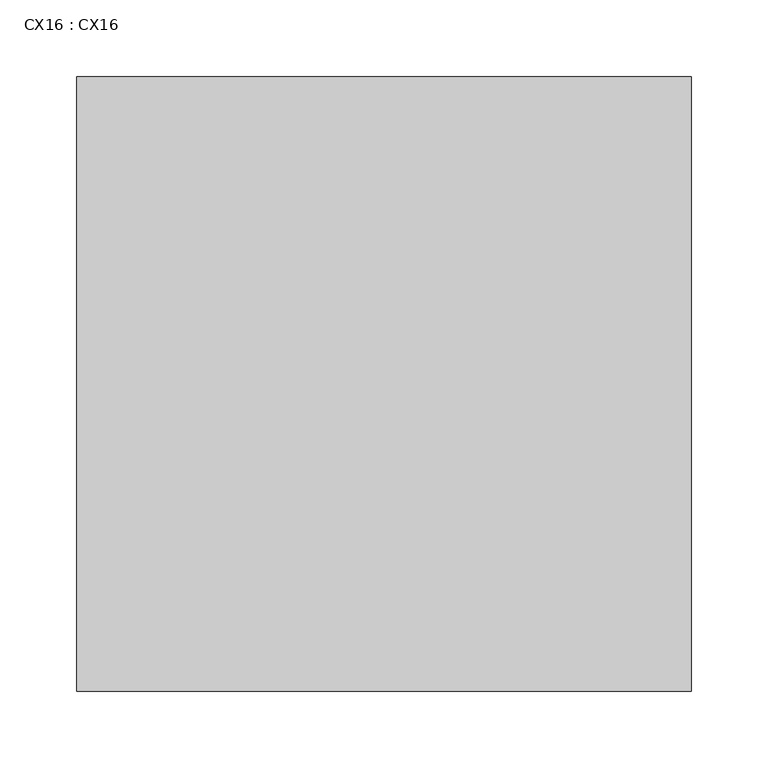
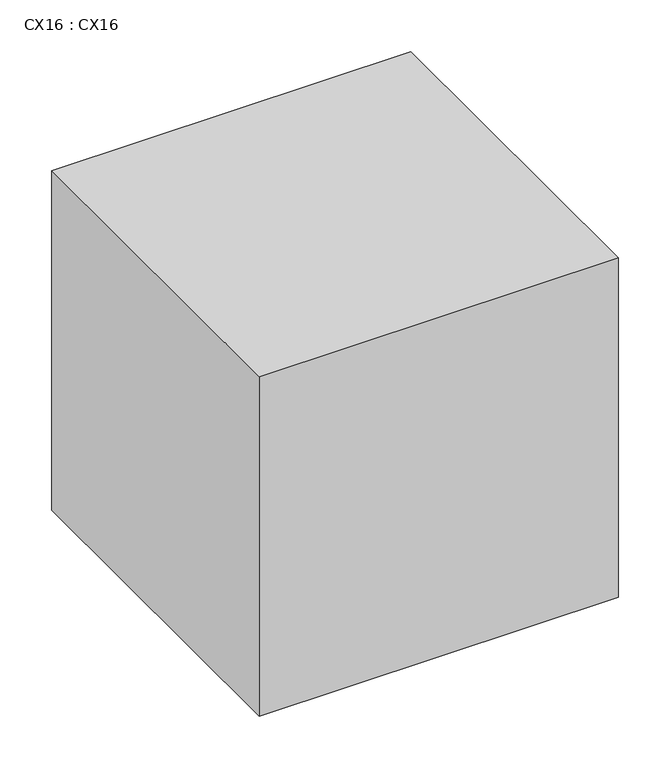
"""IFC4 building model written with IfcOpenShell, lengths in millimetres: proxy geometry, CX16 : CX16."""

from ifc_helpers import new_model, si_unit, frame, origin, place, context, project, spatial, polyline, outline, extrude, source, transform, mapped, element, save


def cx16_cx16_296174b4(model_context):
    return source(origin(), model_context, "Body", "SweptSolid", [
        extrude(outline(polyline([(7046.59, 26255.2), (7046.59, 25855.2), (6646.59, 25855.2), (6646.59, 26255.2), (7046.59, 26255.2)])), frame((0.0, 0.0, -370.0), z_axis=(0.0, 0.0, 1.0), x_axis=(1.0, 0.0, 0.0)), (0.0, 0.0, 1.0), 400.0),
    ])


if __name__ == "__main__":
    model = new_model("IFC4")
    model_context = context("Model", 3, world=origin())
    ifc_project = project(units=[si_unit("LENGTHUNIT", "METRE", prefix="MILLI")], contexts=[model_context])
    site = spatial("IfcSite", under=ifc_project)
    building = spatial("IfcBuilding", under=site)
    placement = place(None, origin())
    cx16_cx16_shape = cx16_cx16_296174b4(model_context)
    element("IfcBuildingElementProxy", 1, Name="CX16 : CX16", ObjectType="CX16 : CX16", at=placement, inside=building, context=model_context, shape_type="MappedRepresentation", body=[
        mapped(cx16_cx16_shape, transform((0.0, 0.0, 0.0), x_axis=(1.0, 0.0, 0.0), y_axis=(0.0, 1.0, 0.0), z_axis=(0.0, 0.0, 1.0))),
    ])
    save(model, "model.ifc")
